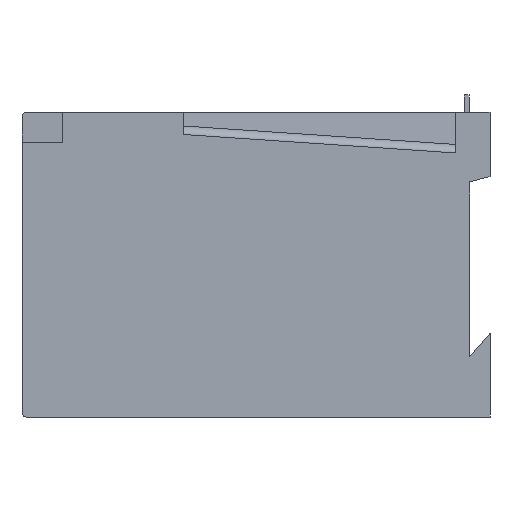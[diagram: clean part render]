
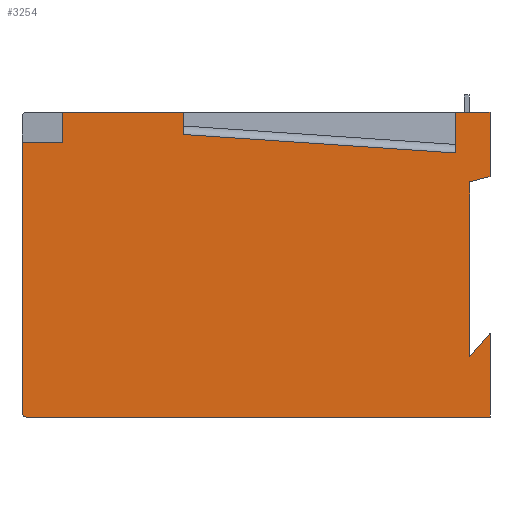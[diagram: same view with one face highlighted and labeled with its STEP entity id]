
A CAD part, left-side view. The second image highlights one B-rep face of the part: STEP entity #3254.
In plain terms, the highlighted planar face has unit normal (-1, 0, 0).
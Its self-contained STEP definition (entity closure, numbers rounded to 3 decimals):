
#28=LINE($,#4554,#464);
#32=LINE($,#4561,#468);
#33=LINE($,#4565,#469);
#34=LINE($,#4567,#470);
#35=LINE($,#4569,#471);
#36=LINE($,#4571,#472);
#37=LINE($,#4573,#473);
#38=LINE($,#4577,#474);
#39=LINE($,#4579,#475);
#40=LINE($,#4581,#476);
#41=LINE($,#4582,#477);
#42=LINE($,#4584,#478);
#43=LINE($,#4586,#479);
#44=LINE($,#4587,#480);
#464=VECTOR($,#3671,15.);
#468=VECTOR($,#3677,4.912);
#469=VECTOR($,#3680,5.2);
#470=VECTOR($,#3681,28.);
#471=VECTOR($,#3682,7.);
#472=VECTOR($,#3683,9.5);
#473=VECTOR($,#3684,63.);
#474=VECTOR($,#3687,108.);
#475=VECTOR($,#3688,19.5);
#476=VECTOR($,#3689,7.267);
#477=VECTOR($,#3690,40.75);
#478=VECTOR($,#3691,8.);
#479=VECTOR($,#3692,9.5);
#480=VECTOR($,#3693,63.645);
#894=PLANE($,#3431);
#1046=FACE_OUTER_BOUND($,#1217,.T.);
#1217=EDGE_LOOP($,(#2268,#2269,#2270,#2271,#2272,#2273,#2274,#2275,#2276,
#2277,#2278,#2279,#2280,#2281,#2282));
#1388=CIRCLE($,#3432,1.);
#1445=VERTEX_POINT($,#4551);
#1446=VERTEX_POINT($,#4553);
#1448=VERTEX_POINT($,#4558);
#1449=VERTEX_POINT($,#4563);
#1450=VERTEX_POINT($,#4564);
#1451=VERTEX_POINT($,#4566);
#1452=VERTEX_POINT($,#4568);
#1453=VERTEX_POINT($,#4570);
#1454=VERTEX_POINT($,#4572);
#1455=VERTEX_POINT($,#4574);
#1456=VERTEX_POINT($,#4576);
#1457=VERTEX_POINT($,#4578);
#1458=VERTEX_POINT($,#4580);
#1459=VERTEX_POINT($,#4583);
#1460=VERTEX_POINT($,#4585);
#1772=EDGE_CURVE($,#1446,#1445,#28,.T.);
#1776=EDGE_CURVE($,#1446,#1448,#32,.T.);
#1777=EDGE_CURVE($,#1449,#1450,#33,.T.);
#1778=EDGE_CURVE($,#1451,#1450,#34,.T.);
#1779=EDGE_CURVE($,#1452,#1451,#35,.T.);
#1780=EDGE_CURVE($,#1452,#1453,#36,.T.);
#1781=EDGE_CURVE($,#1454,#1453,#37,.T.);
#1782=EDGE_CURVE($,#1454,#1455,#1388,.T.);
#1783=EDGE_CURVE($,#1455,#1456,#38,.T.);
#1784=EDGE_CURVE($,#1456,#1457,#39,.T.);
#1785=EDGE_CURVE($,#1458,#1457,#40,.T.);
#1786=EDGE_CURVE($,#1448,#1458,#41,.T.);
#1787=EDGE_CURVE($,#1459,#1445,#42,.T.);
#1788=EDGE_CURVE($,#1460,#1459,#43,.T.);
#1789=EDGE_CURVE($,#1460,#1449,#44,.T.);
#2268=ORIENTED_EDGE($,*,*,#1777,.T.);
#2269=ORIENTED_EDGE($,*,*,#1778,.F.);
#2270=ORIENTED_EDGE($,*,*,#1779,.F.);
#2271=ORIENTED_EDGE($,*,*,#1780,.T.);
#2272=ORIENTED_EDGE($,*,*,#1781,.F.);
#2273=ORIENTED_EDGE($,*,*,#1782,.T.);
#2274=ORIENTED_EDGE($,*,*,#1783,.T.);
#2275=ORIENTED_EDGE($,*,*,#1784,.T.);
#2276=ORIENTED_EDGE($,*,*,#1785,.F.);
#2277=ORIENTED_EDGE($,*,*,#1786,.F.);
#2278=ORIENTED_EDGE($,*,*,#1776,.F.);
#2279=ORIENTED_EDGE($,*,*,#1772,.T.);
#2280=ORIENTED_EDGE($,*,*,#1787,.F.);
#2281=ORIENTED_EDGE($,*,*,#1788,.F.);
#2282=ORIENTED_EDGE($,*,*,#1789,.T.);
#3254=ADVANCED_FACE($,(#1046),#894,.F.);
#3431=AXIS2_PLACEMENT_3D($,#4562,#3678,#3679);
#3432=AXIS2_PLACEMENT_3D($,#4575,#3685,#3686);
#3671=DIRECTION($,(0.,0.,1.));
#3677=DIRECTION($,(0.,0.967,-0.254));
#3678=DIRECTION('center_axis',(1.,0.,0.));
#3679=DIRECTION('ref_axis',(0.,0.,-1.));
#3680=DIRECTION($,(0.,0.,1.));
#3681=DIRECTION($,(0.,-1.,0.));
#3682=DIRECTION($,(0.,0.,1.));
#3683=DIRECTION($,(0.,1.,0.));
#3684=DIRECTION($,(0.,0.,1.));
#3685=DIRECTION('center_axis',(-1.,0.,0.));
#3686=DIRECTION('ref_axis',(0.,0.,-1.));
#3687=DIRECTION($,(0.,-1.,0.));
#3688=DIRECTION($,(0.,0.,1.));
#3689=DIRECTION($,(0.,-0.654,0.757));
#3690=DIRECTION($,(0.,0.,-1.));
#3691=DIRECTION($,(0.,-1.,0.));
#3692=DIRECTION($,(0.,0.,1.));
#3693=DIRECTION($,(0.,0.998,0.068));
#4551=CARTESIAN_POINT('',(-55.5,0.,35.5));
#4553=CARTESIAN_POINT('',(-55.5,0.,20.5));
#4554=CARTESIAN_POINT($,(-55.5,0.,-35.5));
#4558=CARTESIAN_POINT('',(-55.5,4.75,19.25));
#4561=CARTESIAN_POINT($,(-55.5,4.75,19.25));
#4562=CARTESIAN_POINT('Origin',(-55.5,109.,-35.5));
#4563=CARTESIAN_POINT('',(-55.5,71.5,30.3));
#4564=CARTESIAN_POINT('',(-55.5,71.5,35.5));
#4565=CARTESIAN_POINT($,(-55.5,71.5,35.5));
#4566=CARTESIAN_POINT('',(-55.5,99.5,35.5));
#4567=CARTESIAN_POINT($,(-55.5,109.,35.5));
#4568=CARTESIAN_POINT('',(-55.5,99.5,28.5));
#4569=CARTESIAN_POINT($,(-55.5,99.5,35.5));
#4570=CARTESIAN_POINT('',(-55.5,109.,28.5));
#4571=CARTESIAN_POINT($,(-55.5,99.5,28.5));
#4572=CARTESIAN_POINT('',(-55.5,109.,-34.5));
#4573=CARTESIAN_POINT($,(-55.5,109.,-35.5));
#4574=CARTESIAN_POINT('',(-55.5,108.,-35.5));
#4575=CARTESIAN_POINT('Origin',(-55.5,108.,-34.5));
#4576=CARTESIAN_POINT('',(-55.5,0.,-35.5));
#4577=CARTESIAN_POINT($,(-55.5,109.,-35.5));
#4578=CARTESIAN_POINT('',(-55.5,0.,-16.));
#4579=CARTESIAN_POINT($,(-55.5,0.,-35.5));
#4580=CARTESIAN_POINT('',(-55.5,4.75,-21.5));
#4581=CARTESIAN_POINT($,(-55.5,0.,-16.));
#4582=CARTESIAN_POINT($,(-55.5,4.75,-21.5));
#4583=CARTESIAN_POINT('',(-55.5,8.,35.5));
#4584=CARTESIAN_POINT($,(-55.5,109.,35.5));
#4585=CARTESIAN_POINT('',(-55.5,8.,26.));
#4586=CARTESIAN_POINT($,(-55.5,8.,35.5));
#4587=CARTESIAN_POINT($,(-55.5,8.,26.));
